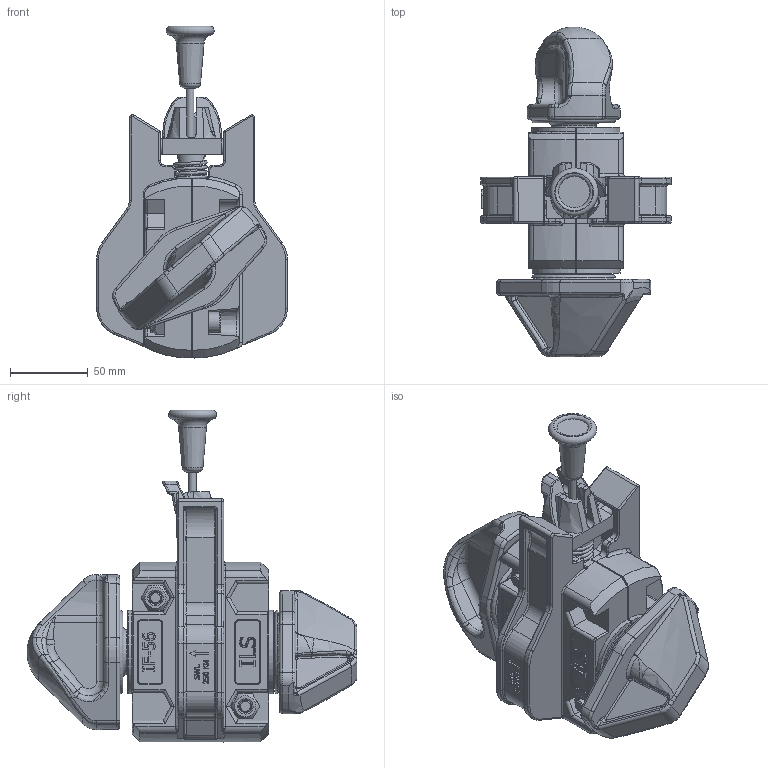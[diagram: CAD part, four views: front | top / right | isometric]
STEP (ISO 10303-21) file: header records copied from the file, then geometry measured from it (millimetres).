
FILE_DESCRIPTION(/* description */ (''),/* implementation_level */ '2;1');
FILE_NAME(/* name */ 'O:\ils2000\Natallia\INVENTOR\AutoCAD stp\NAVACQS\IF-56.stp',/* time_stamp */ '2016-08-12T11:47:28+02:00',/* author */ ('natallia'),/* organization */ (''),/* preprocessor_version */ 'ST-DEVELOPER v16.5',/* originating_system */ 'Autodesk Inventor 2017',/* authorisation */ '');
FILE_SCHEMA (('AUTOMOTIVE_DESIGN { 1 0 10303 214 3 1 1 }'));
Products named in the file (11): IF-56; Body IF-56 right; Body IF-56 left; Mout piese IF-56 N; Veer IF-56; Wire IF-56; JIS B 1176 - M8 x 40; ANSI B18.16.3M - Property Class 5 and 10 - Metric M10 x 1.5 Metal Typ
e; CONE IF-56 UN; CONE  IF-56 1; cone n U
Assembly tree (12 placements, depth 3):
  IF-56
    Body IF-56 right
    Body IF-56 left
    Mout piese IF-56 N
    Veer IF-56
    Wire IF-56
    JIS B 1176 - M8 x 40  x2
    ANSI B18.16.3M - Property Class 5 and 10 - Metric M10 x 1.5 Metal Typ
e  x2
    CONE IF-56 UN
      CONE  IF-56 1
      cone n U
Bounding box: 123.03 x 212.86 x 214.21 mm (x, y, z)
Volume: 814665.6 mm3; surface area: 190331.7 mm2
Topology: 12 solids, 12 shells, 1627 faces, 4061 edges, 2465 vertices
Faces by surface type: plane 507, bspline 497, cylinder 395, torus 177, cone 42, sphere 9
Full cylindrical faces by diameter (mm): 0.1 x1, 5 x5, 8 x2, 8.376 x2, 9 x1, 11 x6, 12 x1, 13 x2, 13.6 x2, 14 x1, 29 x1, 52 x1
Entity records: 66325 total; most frequent: CARTESIAN_POINT 30503, ORIENTED_EDGE 7782, DIRECTION 6627, EDGE_CURVE 3891, AXIS2_PLACEMENT_3D 2473, VERTEX_POINT 2411, EDGE_LOOP 1702, LINE 1681
